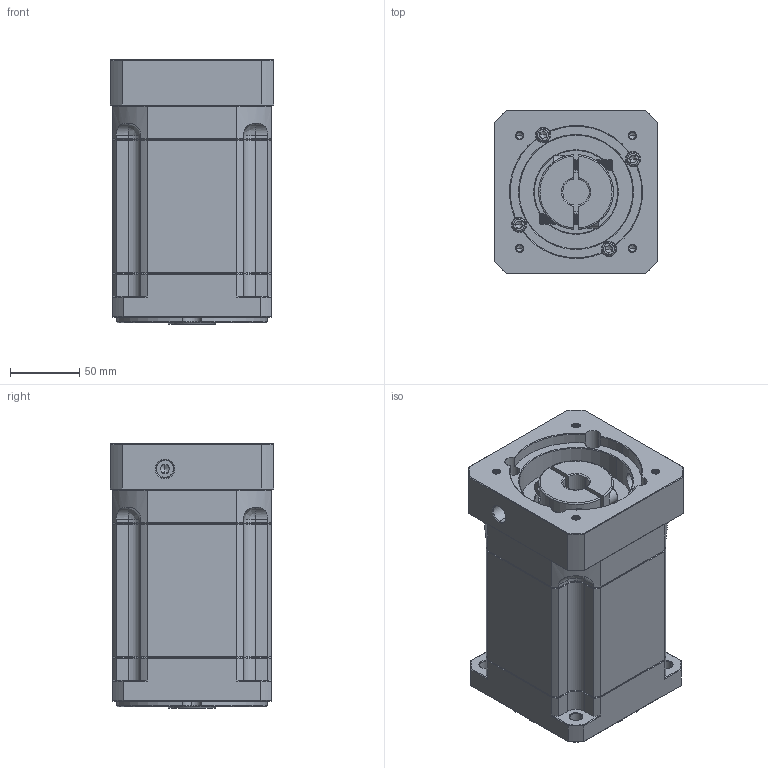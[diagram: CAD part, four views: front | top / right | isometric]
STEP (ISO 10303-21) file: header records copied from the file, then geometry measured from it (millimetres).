
FILE_DESCRIPTION (( 'STEP AP214' ), '1' );
FILE_NAME ('ZB115A-K25-L3-P2-19-95-115-M6.step', '2023-08-26T06:38:47', ( '' ), ( '' ), 'SwSTEP 2.0', 'SolidWorks 2016', '' );
FILE_SCHEMA (( 'AUTOMOTIVE_DESIGN' ));
Length unit declared in the file: millimetre
Products named in the file (1): ZB115A-K25-L3-P2-19-95-115-M6
Bounding box: 118 x 118 x 190.5 mm (x, y, z)
Volume: 2081361.4 mm3; surface area: 183588.7 mm2
Topology: 6 solids, 6 shells, 2327 faces, 6141 edges, 3910 vertices
Faces by surface type: plane 1137, bspline 434, cylinder 379, cone 377
Entity records: 121038 total; most frequent: CARTESIAN_POINT 41091, ORIENTED_EDGE 12218, DIRECTION 9762, EDGE_CURVE 6109, LINE 3932, VECTOR 3932, VERTEX_POINT 3910, AXIS2_PLACEMENT_3D 2915
